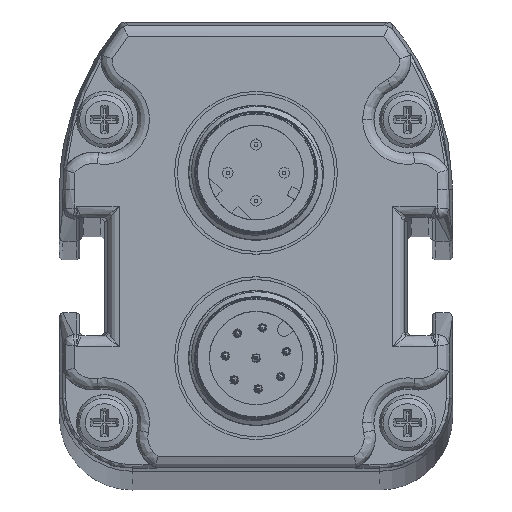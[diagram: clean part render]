
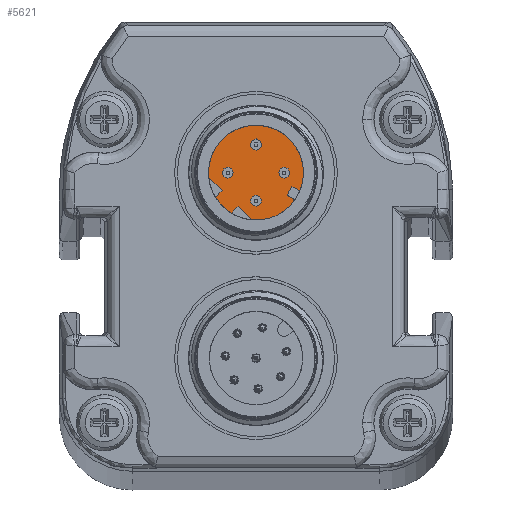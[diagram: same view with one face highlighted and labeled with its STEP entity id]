
A CAD part, top view. The second image highlights one B-rep face of the part: STEP entity #5621.
In plain terms, the highlighted planar face has unit normal (0, 0, 1).
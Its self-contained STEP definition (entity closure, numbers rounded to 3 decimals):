
#3877=FACE_BOUND('',#7027,.T.);
#3878=FACE_BOUND('',#7028,.T.);
#3879=FACE_BOUND('',#7029,.T.);
#3880=FACE_BOUND('',#7030,.T.);
#3881=FACE_BOUND('',#7031,.T.);
#4113=CIRCLE('',#14350,4.225);
#4115=CIRCLE('',#14352,4.225);
#4117=CIRCLE('',#14354,4.225);
#4118=CIRCLE('',#14355,4.225);
#4120=CIRCLE('',#14360,0.5);
#4121=CIRCLE('',#14361,0.5);
#4122=CIRCLE('',#14362,0.5);
#4123=CIRCLE('',#14363,0.5);
#5621=ADVANCED_FACE('F38',(#3877,#3878,#3879,#3880,#3881),#6058,.F.);
#6058=PLANE('',#14364);
#7027=EDGE_LOOP('',(#9022,#9023,#9024,#9025,#9026,#9027,#9028,#9029,#9030,
#9031,#9032));
#7028=EDGE_LOOP('',(#9033));
#7029=EDGE_LOOP('',(#9034));
#7030=EDGE_LOOP('',(#9035));
#7031=EDGE_LOOP('',(#9036));
#9022=ORIENTED_EDGE('',*,*,#12528,.T.);
#9023=ORIENTED_EDGE('',*,*,#12526,.T.);
#9024=ORIENTED_EDGE('',*,*,#12536,.F.);
#9025=ORIENTED_EDGE('',*,*,#12537,.F.);
#9026=ORIENTED_EDGE('',*,*,#12522,.T.);
#9027=ORIENTED_EDGE('',*,*,#12538,.F.);
#9028=ORIENTED_EDGE('',*,*,#12539,.F.);
#9029=ORIENTED_EDGE('',*,*,#12518,.T.);
#9030=ORIENTED_EDGE('',*,*,#12540,.F.);
#9031=ORIENTED_EDGE('',*,*,#12541,.F.);
#9032=ORIENTED_EDGE('',*,*,#12534,.F.);
#9033=ORIENTED_EDGE('',*,*,#12542,.F.);
#9034=ORIENTED_EDGE('',*,*,#12543,.F.);
#9035=ORIENTED_EDGE('',*,*,#12544,.F.);
#9036=ORIENTED_EDGE('',*,*,#12545,.F.);
#11207=VERTEX_POINT('',#24917);
#11209=VERTEX_POINT('',#24920);
#11212=VERTEX_POINT('',#24926);
#11213=VERTEX_POINT('',#24928);
#11216=VERTEX_POINT('',#24934);
#11217=VERTEX_POINT('',#24936);
#11218=VERTEX_POINT('',#24939);
#11222=VERTEX_POINT('',#24951);
#11223=VERTEX_POINT('',#24955);
#11224=VERTEX_POINT('',#24958);
#11225=VERTEX_POINT('',#24961);
#11226=VERTEX_POINT('',#24964);
#11227=VERTEX_POINT('',#24966);
#11228=VERTEX_POINT('',#24968);
#11229=VERTEX_POINT('',#24970);
#12518=EDGE_CURVE('E22',#11209,#11207,#4113,.T.);
#12522=EDGE_CURVE('E18',#11213,#11212,#4115,.T.);
#12526=EDGE_CURVE('E14',#11217,#11216,#4117,.T.);
#12528=EDGE_CURVE('E11',#11218,#11217,#4118,.T.);
#12534=EDGE_CURVE('E24',#11218,#11222,#13429,.T.);
#12536=EDGE_CURVE('E54',#11223,#11216,#13431,.T.);
#12537=EDGE_CURVE('E52',#11213,#11223,#13432,.T.);
#12538=EDGE_CURVE('E55',#11224,#11212,#13433,.T.);
#12539=EDGE_CURVE('E57',#11209,#11224,#13434,.T.);
#12540=EDGE_CURVE('E30',#11225,#11207,#13435,.T.);
#12541=EDGE_CURVE('E27',#11222,#11225,#13436,.T.);
#12542=EDGE_CURVE('E63',#11226,#11226,#4120,.T.);
#12543=EDGE_CURVE('E67',#11227,#11227,#4121,.T.);
#12544=EDGE_CURVE('E71',#11228,#11228,#4122,.T.);
#12545=EDGE_CURVE('E75',#11229,#11229,#4123,.T.);
#13429=LINE('',#24950,#13801);
#13431=LINE('',#24954,#13803);
#13432=LINE('',#24956,#13804);
#13433=LINE('',#24957,#13805);
#13434=LINE('',#24959,#13806);
#13435=LINE('',#24960,#13807);
#13436=LINE('',#24962,#13808);
#13801=VECTOR('',#15692,1.);
#13803=VECTOR('',#15696,1.);
#13804=VECTOR('',#15697,1.);
#13805=VECTOR('',#15698,1.);
#13806=VECTOR('',#15699,1.);
#13807=VECTOR('',#15700,1.);
#13808=VECTOR('',#15701,1.);
#14350=AXIS2_PLACEMENT_3D('',#24919,#15665,#15666);
#14352=AXIS2_PLACEMENT_3D('',#24927,#15671,#15672);
#14354=AXIS2_PLACEMENT_3D('',#24935,#15677,#15678);
#14355=AXIS2_PLACEMENT_3D('',#24938,#15680,#15681);
#14360=AXIS2_PLACEMENT_3D('',#24963,#15702,#15703);
#14361=AXIS2_PLACEMENT_3D('',#24965,#15704,#15705);
#14362=AXIS2_PLACEMENT_3D('',#24967,#15706,#15707);
#14363=AXIS2_PLACEMENT_3D('',#24969,#15708,#15709);
#14364=AXIS2_PLACEMENT_3D('',#24971,#15710,#15711);
#15665=DIRECTION('',(0.,0.,1.));
#15666=DIRECTION('',(-0.092,-0.996,0.));
#15671=DIRECTION('',(0.,0.,1.));
#15672=DIRECTION('',(-0.854,-0.52,0.));
#15677=DIRECTION('',(0.,0.,1.));
#15678=DIRECTION('',(-0.707,0.707,0.));
#15680=DIRECTION('',(0.,0.,1.));
#15681=DIRECTION('',(0.925,-0.381,0.));
#15692=DIRECTION('',(-0.879,0.477,0.));
#15696=DIRECTION('',(-0.707,0.707,0.));
#15697=DIRECTION('',(0.707,0.707,0.));
#15698=DIRECTION('',(-0.707,-0.707,0.));
#15699=DIRECTION('',(-0.707,0.707,0.));
#15700=DIRECTION('',(0.879,-0.477,0.));
#15701=DIRECTION('',(-0.477,-0.879,0.));
#15702=DIRECTION('',(0.,0.,1.));
#15703=DIRECTION('',(0.707,-0.707,0.));
#15704=DIRECTION('',(0.,0.,1.));
#15705=DIRECTION('',(0.707,-0.707,0.));
#15706=DIRECTION('',(0.,0.,1.));
#15707=DIRECTION('',(0.707,-0.707,0.));
#15708=DIRECTION('',(0.,0.,1.));
#15709=DIRECTION('',(0.707,-0.707,0.));
#15710=DIRECTION('',(0.,0.,-1.));
#15711=DIRECTION('',(-0.707,0.707,0.));
#24917=CARTESIAN_POINT('',(85.49,21.657,1726.168));
#24919=CARTESIAN_POINT('',(82.013,24.057,1726.168));
#24920=CARTESIAN_POINT('',(81.624,19.85,1726.168));
#24926=CARTESIAN_POINT('',(79.817,20.447,1726.168));
#24927=CARTESIAN_POINT('',(82.013,24.057,1726.168));
#24928=CARTESIAN_POINT('',(78.403,21.862,1726.168));
#24934=CARTESIAN_POINT('',(77.806,23.668,1726.168));
#24935=CARTESIAN_POINT('',(82.013,24.057,1726.168));
#24936=CARTESIAN_POINT('',(79.025,27.045,1726.168));
#24938=CARTESIAN_POINT('',(82.013,24.057,1726.168));
#24939=CARTESIAN_POINT('',(85.919,22.448,1726.168));
#24950=CARTESIAN_POINT('',(85.567,22.639,1726.168));
#24951=CARTESIAN_POINT('',(85.215,22.83,1726.168));
#24954=CARTESIAN_POINT('',(78.407,23.067,1726.168));
#24955=CARTESIAN_POINT('',(79.008,22.466,1726.168));
#24956=CARTESIAN_POINT('',(78.705,22.164,1726.168));
#24957=CARTESIAN_POINT('',(80.119,20.75,1726.168));
#24958=CARTESIAN_POINT('',(80.422,21.052,1726.168));
#24959=CARTESIAN_POINT('',(81.023,20.451,1726.168));
#24960=CARTESIAN_POINT('',(85.138,21.848,1726.168));
#24961=CARTESIAN_POINT('',(84.786,22.039,1726.168));
#24962=CARTESIAN_POINT('',(85.001,22.435,1726.168));
#24963=CARTESIAN_POINT('',(82.013,21.557,1726.168));
#24964=CARTESIAN_POINT('',(82.366,21.204,1726.168));
#24965=CARTESIAN_POINT('',(79.513,24.057,1726.168));
#24966=CARTESIAN_POINT('',(79.866,23.704,1726.168));
#24967=CARTESIAN_POINT('',(82.013,26.557,1726.168));
#24968=CARTESIAN_POINT('',(82.366,26.204,1726.168));
#24969=CARTESIAN_POINT('',(84.513,24.057,1726.168));
#24970=CARTESIAN_POINT('',(84.866,23.704,1726.168));
#24971=CARTESIAN_POINT('',(82.013,17.783,1726.168));
